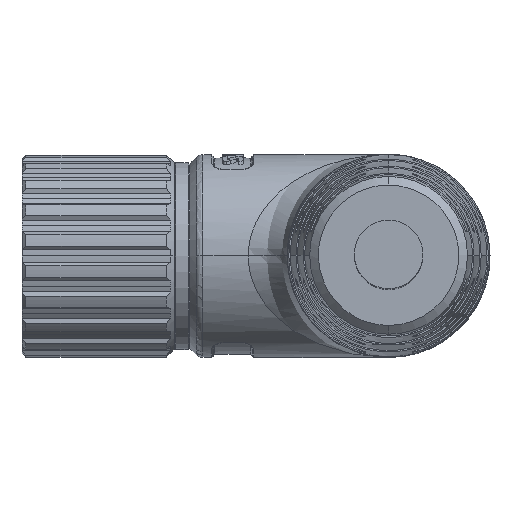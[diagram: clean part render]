
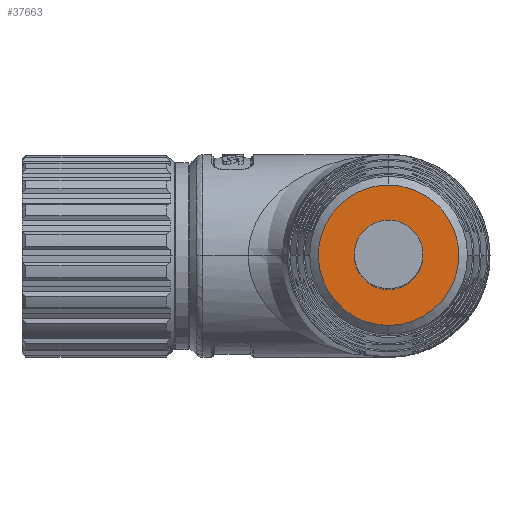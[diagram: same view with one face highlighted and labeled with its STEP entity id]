
A CAD part, top view. The second image highlights one B-rep face of the part: STEP entity #37663.
In plain terms, the highlighted planar face has unit normal (0, 0, 1).
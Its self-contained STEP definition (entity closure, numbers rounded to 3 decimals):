
#137 = DIRECTION ( 'NONE',  ( 0., 0., -1. ) ) ;
#599 = CARTESIAN_POINT ( 'NONE',  ( 27.5, 0.012, 58. ) ) ;
#1108 = EDGE_LOOP ( 'NONE', ( #22249, #14951 ) ) ;
#2974 = CARTESIAN_POINT ( 'NONE',  ( 25.163, 8.708, 57.998 ) ) ;
#3497 = CARTESIAN_POINT ( 'NONE',  ( 24.593, -8.526, 58.002 ) ) ;
#3767 = CARTESIAN_POINT ( 'NONE',  ( 27.5, -8.988, 58.002 ) ) ;
#4031 = CARTESIAN_POINT ( 'NONE',  ( 24.597, 8.536, 57.998 ) ) ;
#4781 = EDGE_CURVE ( 'NONE', #26533, #27645, #48115, .T. ) ;
#5358 = DIRECTION ( 'NONE',  ( 0., 0., -1. ) ) ;
#7031 = CARTESIAN_POINT ( 'NONE',  ( 20.359, -5.474, 58.001 ) ) ;
#7826 = CARTESIAN_POINT ( 'NONE',  ( 23.509, -8.076, 58.002 ) ) ;
#8090 = CARTESIAN_POINT ( 'NONE',  ( 22.255, -7.308, 58.002 ) ) ;
#8605 = FACE_OUTER_BOUND ( 'NONE', #1108, .T. ) ;
#9138 = DIRECTION ( 'NONE',  ( 1., 0., 0. ) ) ;
#10160 = AXIS2_PLACEMENT_3D ( 'NONE', #599, #50044, #37325 ) ;
#11071 = CARTESIAN_POINT ( 'NONE',  ( 18.788, 2.346, 58. ) ) ;
#11873 = CARTESIAN_POINT ( 'NONE',  ( 26.906, -8.988, 58.002 ) ) ;
#12140 = CARTESIAN_POINT ( 'NONE',  ( 20.732, 5.951, 57.999 ) ) ;
#14214 = CARTESIAN_POINT ( 'NONE',  ( 27.5, 0.012, 58. ) ) ;
#14381 = AXIS2_PLACEMENT_3D ( 'NONE', #14214, #21779, #46902 ) ;
#14951 = ORIENTED_EDGE ( 'NONE', *, *, #4781, .T. ) ;
#15105 = CARTESIAN_POINT ( 'NONE',  ( 27.5, 9.012, 57.998 ) ) ;
#15409 = CARTESIAN_POINT ( 'NONE',  ( 19.412, -3.98, 58.001 ) ) ;
#16212 = CARTESIAN_POINT ( 'NONE',  ( 26.32, -8.93, 58.002 ) ) ;
#18413 = B_SPLINE_CURVE_WITH_KNOTS ( 'NONE', 3,
 ( #3767, #11873, #16212, #20519, #3497, #7826, #40794, #8090, #20253, #19984, #27566, #40249, #7031, #48364, #23502, #15409, #48092, #35919, #36189, #44297, #27827, #32389, #49159, #24294, #11071, #44833, #32119, #48885, #48625, #39990, #12140, #28090, #36728, #28613, #44565, #45107, #24562, #41062, #4031, #2974, #53476, #31594, #19448, #52418 ),
 .UNSPECIFIED., .F., .F.,
 ( 4, 2, 2, 2, 2, 1, 2, 2, 2, 2, 2, 2, 2, 2, 2, 2, 1, 2, 2, 2, 2, 2, 4 ),
 ( -0.014, -0.012, -0.011, -0.009, -0.008, -0.007, -0.006, -0.005, -0.004, -0.003, -0.002, 0., 0.002, 0.004, 0.005, 0.006, 0.007, 0.008, 0.009, 0.011, 0.011, 0.012, 0.014 ),
 .UNSPECIFIED. ) ;
#19448 = CARTESIAN_POINT ( 'NONE',  ( 26.906, 9.012, 57.998 ) ) ;
#19984 = CARTESIAN_POINT ( 'NONE',  ( 21.561, -6.757, 58.001 ) ) ;
#20253 = CARTESIAN_POINT ( 'NONE',  ( 22.016, -7.13, 58.001 ) ) ;
#20515 = ORIENTED_EDGE ( 'NONE', *, *, #30062, .T. ) ;
#20519 = CARTESIAN_POINT ( 'NONE',  ( 25.166, -8.7, 58.002 ) ) ;
#20663 = DIRECTION ( 'NONE',  ( 0., 1., 0. ) ) ;
#21779 = DIRECTION ( 'NONE',  ( 0., 0., -1. ) ) ;
#22249 = ORIENTED_EDGE ( 'NONE', *, *, #34757, .F. ) ;
#23502 = CARTESIAN_POINT ( 'NONE',  ( 19.688, -4.497, 58.001 ) ) ;
#24294 = CARTESIAN_POINT ( 'NONE',  ( 18.558, 1.192, 58. ) ) ;
#24562 = CARTESIAN_POINT ( 'NONE',  ( 23.508, 8.1, 57.998 ) ) ;
#25900 = CARTESIAN_POINT ( 'NONE',  ( 27.5, -4.388, 58.001 ) ) ;
#26533 = VERTEX_POINT ( 'NONE', #27448 ) ;
#27448 = CARTESIAN_POINT ( 'NONE',  ( 27.5, -8.988, 58.002 ) ) ;
#27566 = CARTESIAN_POINT ( 'NONE',  ( 21.126, -6.362, 58.001 ) ) ;
#27645 = VERTEX_POINT ( 'NONE', #15105 ) ;
#27827 = CARTESIAN_POINT ( 'NONE',  ( 18.558, -1.168, 58. ) ) ;
#28090 = CARTESIAN_POINT ( 'NONE',  ( 21.126, 6.386, 57.999 ) ) ;
#28162 = CIRCLE ( 'NONE', #14381, 4.4 ) ;
#28613 = CARTESIAN_POINT ( 'NONE',  ( 22.014, 7.153, 57.999 ) ) ;
#28637 = CIRCLE ( 'NONE', #37279, 4.4 ) ;
#30062 = EDGE_CURVE ( 'NONE', #37614, #42306, #28162, .T. ) ;
#31241 = CARTESIAN_POINT ( 'NONE',  ( 27.5, 4.412, 57.999 ) ) ;
#31594 = CARTESIAN_POINT ( 'NONE',  ( 26.32, 8.954, 57.998 ) ) ;
#32119 = CARTESIAN_POINT ( 'NONE',  ( 19.412, 4.003, 57.999 ) ) ;
#32389 = CARTESIAN_POINT ( 'NONE',  ( 18.5, -0.582, 58. ) ) ;
#32810 = CARTESIAN_POINT ( 'NONE',  ( 27.5, 0.012, 58. ) ) ;
#33351 = AXIS2_PLACEMENT_3D ( 'NONE', #50493, #5358, #9138 ) ;
#34000 = PLANE ( 'NONE',  #33351 ) ;
#34757 = EDGE_CURVE ( 'NONE', #26533, #27645, #18413, .T. ) ;
#35919 = CARTESIAN_POINT ( 'NONE',  ( 18.976, -2.891, 58.001 ) ) ;
#36189 = CARTESIAN_POINT ( 'NONE',  ( 18.804, -2.325, 58. ) ) ;
#36728 = CARTESIAN_POINT ( 'NONE',  ( 21.56, 6.779, 57.999 ) ) ;
#37279 = AXIS2_PLACEMENT_3D ( 'NONE', #32810, #137, #20663 ) ;
#37325 = DIRECTION ( 'NONE',  ( 0., 1., 0. ) ) ;
#37614 = VERTEX_POINT ( 'NONE', #25900 ) ;
#37663 = ADVANCED_FACE ( 'NONE', ( #45620, #8605 ), #34000, .F. ) ;
#39990 = CARTESIAN_POINT ( 'NONE',  ( 20.358, 5.496, 57.999 ) ) ;
#40249 = CARTESIAN_POINT ( 'NONE',  ( 20.732, -5.928, 58.001 ) ) ;
#40794 = CARTESIAN_POINT ( 'NONE',  ( 22.992, -7.8, 58.002 ) ) ;
#40976 = EDGE_LOOP ( 'NONE', ( #20515, #49918 ) ) ;
#41062 = CARTESIAN_POINT ( 'NONE',  ( 24.321, 8.437, 57.998 ) ) ;
#42306 = VERTEX_POINT ( 'NONE', #31241 ) ;
#44297 = CARTESIAN_POINT ( 'NONE',  ( 18.731, -2.036, 58. ) ) ;
#44565 = CARTESIAN_POINT ( 'NONE',  ( 22.252, 7.33, 57.998 ) ) ;
#44833 = CARTESIAN_POINT ( 'NONE',  ( 18.962, 2.919, 57.999 ) ) ;
#45107 = CARTESIAN_POINT ( 'NONE',  ( 22.991, 7.824, 57.998 ) ) ;
#45620 = FACE_BOUND ( 'NONE', #40976, .T. ) ;
#46902 = DIRECTION ( 'NONE',  ( 0., 1., 0. ) ) ;
#48092 = CARTESIAN_POINT ( 'NONE',  ( 19.075, -3.167, 58.001 ) ) ;
#48115 = CIRCLE ( 'NONE', #10160, 9. ) ;
#48364 = CARTESIAN_POINT ( 'NONE',  ( 20.182, -5.236, 58.001 ) ) ;
#48565 = EDGE_CURVE ( 'NONE', #42306, #37614, #28637, .T. ) ;
#48625 = CARTESIAN_POINT ( 'NONE',  ( 20.18, 5.256, 57.999 ) ) ;
#48885 = CARTESIAN_POINT ( 'NONE',  ( 19.688, 4.52, 57.999 ) ) ;
#49159 = CARTESIAN_POINT ( 'NONE',  ( 18.5, 0.606, 58. ) ) ;
#49918 = ORIENTED_EDGE ( 'NONE', *, *, #48565, .T. ) ;
#50044 = DIRECTION ( 'NONE',  ( 0., 0., 1. ) ) ;
#50493 = CARTESIAN_POINT ( 'NONE',  ( 18.14, 9.372, 57.998 ) ) ;
#52418 = CARTESIAN_POINT ( 'NONE',  ( 27.5, 9.012, 57.998 ) ) ;
#53476 = CARTESIAN_POINT ( 'NONE',  ( 25.452, 8.781, 57.998 ) ) ;
